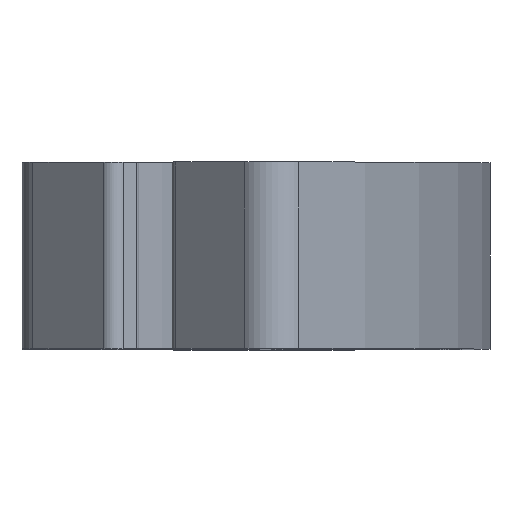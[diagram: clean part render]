
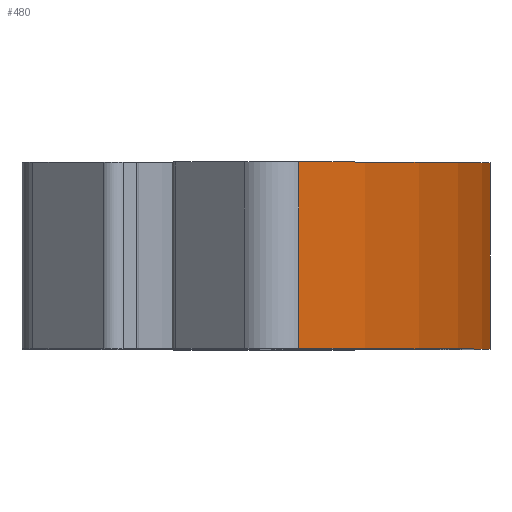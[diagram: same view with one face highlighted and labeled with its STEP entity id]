
A CAD part, top view. The second image highlights one B-rep face of the part: STEP entity #480.
In plain terms, the highlighted cylindrical face has radius 80 mm (diameter 160 mm), a partial arc.
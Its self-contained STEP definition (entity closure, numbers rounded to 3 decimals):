
#480=ADVANCED_FACE('',(#963),#964,.T.);
#963=FACE_OUTER_BOUND('',#1430,.T.);
#964=CYLINDRICAL_SURFACE('',#1431,80.0);
#1430=EDGE_LOOP('',(#2851,#2852,#2853,#2854));
#1431=AXIS2_PLACEMENT_3D('',#2855,#2856,#2857);
#2851=ORIENTED_EDGE('',*,*,#3275,.T.);
#2852=ORIENTED_EDGE('',*,*,#3365,.T.);
#2853=ORIENTED_EDGE('',*,*,#3323,.T.);
#2854=ORIENTED_EDGE('',*,*,#3284,.T.);
#2855=CARTESIAN_POINT('',(-60.,10.0,0.));
#2856=DIRECTION('',(0.0,-1.0,0.0));
#2857=DIRECTION('',(0.707,0.0,-0.707));
#3275=EDGE_CURVE('',#4052,#4049,#4053,.T.);
#3284=EDGE_CURVE('',#4065,#4052,#4066,.T.);
#3323=EDGE_CURVE('',#4141,#4065,#4142,.T.);
#3365=EDGE_CURVE('',#4049,#4141,#4220,.T.);
#4049=VERTEX_POINT('',#5062);
#4052=VERTEX_POINT('',#5065);
#4053=LINE('',#5066,#5067);
#4065=VERTEX_POINT('',#5083);
#4066=CIRCLE('',#5084,80.0);
#4141=VERTEX_POINT('',#5172);
#4142=LINE('',#5173,#5174);
#4220=CIRCLE('',#5267,80.0);
#5062=CARTESIAN_POINT('',(-0.533,-10.0,53.513));
#5065=CARTESIAN_POINT('',(-0.533,10.0,53.513));
#5066=CARTESIAN_POINT('',(-0.533,0.,53.513));
#5067=VECTOR('',#5974,1.0);
#5083=CARTESIAN_POINT('',(-0.533,10.0,-53.513));
#5084=AXIS2_PLACEMENT_3D('',#5985,#5986,#5987);
#5172=CARTESIAN_POINT('',(-0.533,-10.0,-53.513));
#5173=CARTESIAN_POINT('',(-0.533,0.,-53.513));
#5174=VECTOR('',#6073,1.0);
#5267=AXIS2_PLACEMENT_3D('',#6161,#6162,#6163);
#5974=DIRECTION('',(0.0,-1.0,0.0));
#5985=CARTESIAN_POINT('',(-60.,10.0,0.));
#5986=DIRECTION('',(0.0,-1.0,0.0));
#5987=DIRECTION('',(0.707,0.0,-0.707));
#6073=DIRECTION('',(-0.0,1.0,-0.0));
#6161=CARTESIAN_POINT('',(-60.,-10.0,0.));
#6162=DIRECTION('',(0.0,1.0,0.0));
#6163=DIRECTION('',(0.707,0.0,-0.707));
